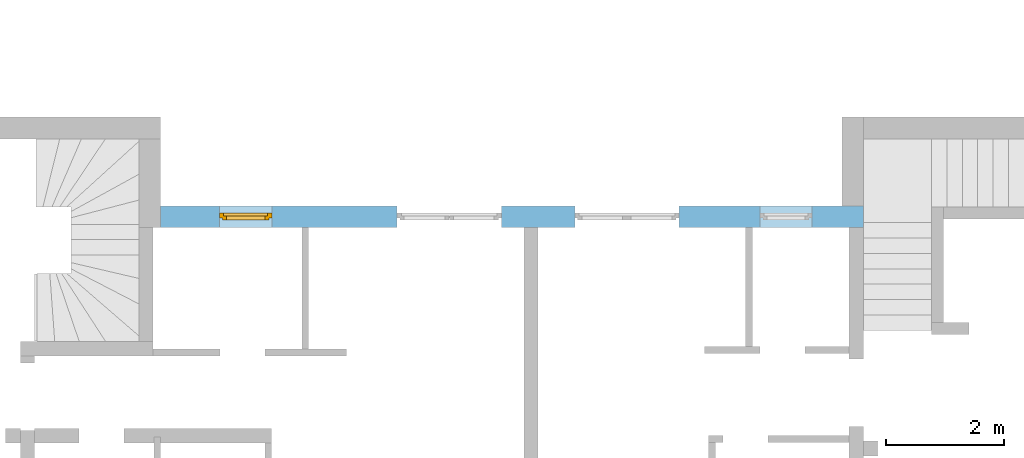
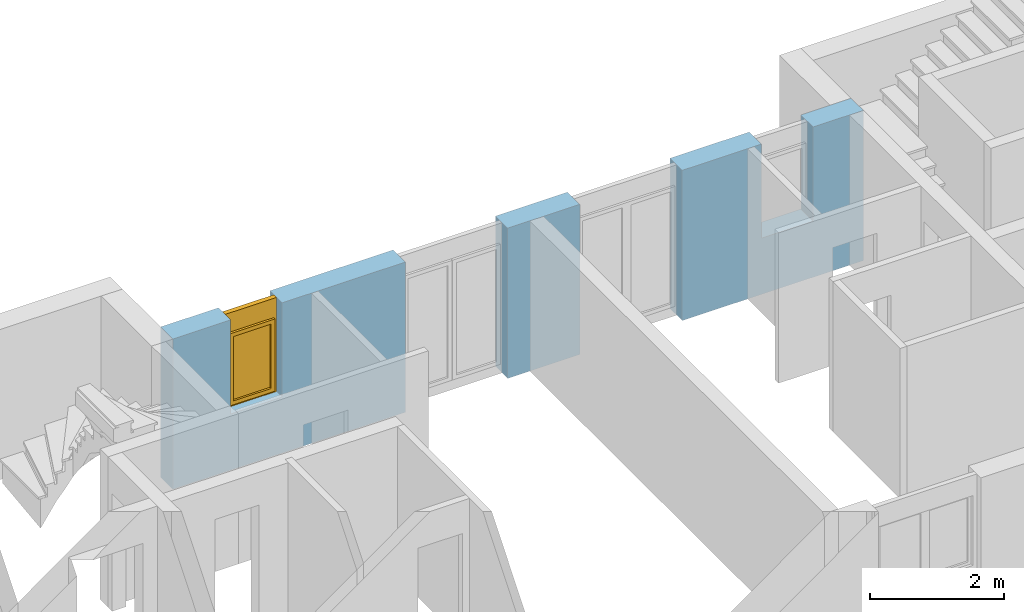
# One storey, part 32 of 41: 1 window, 4 openings, plus 1 element that does not belong to this part.
"""IFC2X3 building model written with IfcOpenShell, lengths in millimetres."""

from ifc_helpers import new_model, entity, si_unit, converted_unit, frame, frame_2d, origin, origin_with_axes, place, context, subcontext, project, spatial, rectangle, extrude, faceted_brep, material, layer, layer_set, layer_usage, type_object, element, fill, save


model = new_model("IFC2X3")

# Units and contexts
model_context = context("Model", 3, precision=1e-05, world=origin())
body_context = subcontext(model_context, "Body", "Model", "MODEL_VIEW")
ifc_project = project(units=[si_unit("LENGTHUNIT", "METRE", prefix="MILLI"), converted_unit("PLANEANGLEUNIT", "DEGREE", entity("IfcPlaneAngleMeasure", 0.0174532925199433), si_unit("PLANEANGLEUNIT", "RADIAN"), dimensions=[0, 0, 0, 0, 0, 0, 0]), si_unit("AREAUNIT", "SQUARE_METRE"), si_unit("VOLUMEUNIT", "CUBIC_METRE")], contexts=[model_context])

# Building, storey
building_placement = place(None, origin())
building = spatial("IfcBuilding", under=ifc_project, at=building_placement, Name="Gebäude", CompositionType="ELEMENT")
storey_placement = place(building_placement, frame((0.0, 0.0, -200.0), z_axis=(0.0, 0.0, 1.0), x_axis=(1.0, 0.0, 0.0)))
storey = spatial("IfcBuildingStorey", under=building, at=storey_placement, Name="EG.- Grundriss", CompositionType="ELEMENT", Elevation=-200.0)

# Wall, openings, window
ifc_material_1 = material(Name="Poroton")
ifc_layer = layer(ifc_material_1, 365.0000000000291)
ifc_layer_set = layer_set([ifc_layer])
ifc_layer_usage = layer_usage(ifc_layer_set, "AXIS2", "POSITIVE", 0.0)
wall_placement = place(storey_placement, frame((176237.7928067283, 134774.8877324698, 0.0), z_axis=(0.0, 0.0, 1.0), x_axis=(-1.0, 0.0, 0.0)))
wall = element("IfcWallStandardCase", 1, at=wall_placement, inside=storey, material=ifc_layer_usage, Name="<Unnamed Element>", context=body_context, shape_type="SweptSolid", body=[
    extrude(rectangle(XDim=11869.99999999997, YDim=365.0000000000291, at=frame_2d((5934.999999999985, 182.5000000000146), x_axis=(1.0, 0.0))), origin_with_axes(), (0.0, 0.0, 1.0), 2730.0),
])
opening_1_placement = place(wall_placement, frame((9990.00000000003, 0.0, 1020.0), z_axis=(0.0, 1.0, 0.0), x_axis=(0.0, 0.0, 1.0)))
opening_1 = element("IfcOpeningElement", 2, at=opening_1_placement, cuts=wall, Name="Fensteröffnung", ObjectType="Opening", context=body_context, shape_type="SweptSolid", body=[
    extrude(rectangle(XDim=1710.0, YDim=885.0, at=frame_2d((855.0, 442.5), x_axis=(1.0, 0.0))), origin_with_axes(), (0.0, 0.0, 1.0), 365.0000000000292),
])
opening_2_placement = place(wall_placement, frame((6115.000000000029, 0.0, 0.0), z_axis=(0.0, 1.0, 0.0), x_axis=(0.0, 0.0, 1.0)))
element("IfcOpeningElement", 3, at=opening_2_placement, cuts=wall, Name="Fensteröffnung", ObjectType="Opening", context=body_context, shape_type="SweptSolid", body=[
    extrude(rectangle(XDim=2730.0, YDim=1760.0, at=frame_2d((1365.0, 880.0), x_axis=(1.0, 0.0))), origin_with_axes(), (0.0, 0.0, 1.0), 365.0000000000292),
])
opening_3_placement = place(wall_placement, frame((3115.000000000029, 0.0, 0.0), z_axis=(0.0, 1.0, 0.0), x_axis=(0.0, 0.0, 1.0)))
element("IfcOpeningElement", 4, at=opening_3_placement, cuts=wall, Name="Fensteröffnung", ObjectType="Opening", context=body_context, shape_type="SweptSolid", body=[
    extrude(rectangle(XDim=2730.0, YDim=1760.0, at=frame_2d((1365.0, 880.0), x_axis=(1.0, 0.0))), origin_with_axes(), (0.0, 0.0, 1.0), 365.0000000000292),
])
opening_4_placement = place(wall_placement, frame((865.0000000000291, 0.0, 1020.0), z_axis=(0.0, 1.0, 0.0), x_axis=(0.0, 0.0, 1.0)))
element("IfcOpeningElement", 5, at=opening_4_placement, cuts=wall, Name="Fensteröffnung", ObjectType="Opening", context=body_context, shape_type="SweptSolid", body=[
    extrude(rectangle(XDim=1710.0, YDim=885.0, at=frame_2d((855.0, 442.5), x_axis=(1.0, 0.0))), origin_with_axes(), (0.0, 0.0, 1.0), 365.0000000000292),
])
ifc_material_2 = material()
window_style = type_object("IfcWindowStyle", Name="Fenster", ConstructionType="NOTDEFINED", OperationType="USERDEFINED", ParameterTakesPrecedence=False, Sizeable=False)
window_placement = place(opening_1_placement, frame((0.0, 0.0, 0.0), z_axis=(1.0, 0.0, 0.0), x_axis=(0.0, 1.0, 0.0)))
window = element("IfcWindow", 6, at=window_placement, inside=storey, type_object=window_style, material=ifc_material_2, Name="Fenster", OverallHeight=1710.0, OverallWidth=885.0, context=body_context, shape_type="Brep", body=[
    faceted_brep([(9.797174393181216e-15, 200.0000000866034, 1710.0), (9.797174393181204e-15, 200.0000000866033, -2.449293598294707e-15), (69.99999999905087, 200.0000000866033, -2.449293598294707e-15), (69.99999999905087, 200.0000000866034, 1710.0), (0.0, 120.0000000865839, 2.449293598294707e-15), (1.21822944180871e-29, 120.000000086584, 1710.0), (69.99999999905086, 120.000000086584, 1710.0), (69.99999999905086, 120.0000000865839, 2.449293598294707e-15), (9.797174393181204e-15, 200.0000000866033, -2.449293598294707e-15), (9.797174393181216e-15, 200.0000000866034, 1710.0), (1.21822944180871e-29, 120.000000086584, 1710.0), (0.0, 120.0000000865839, 2.449293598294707e-15), (69.99999999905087, 200.0000000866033, -2.449293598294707e-15), (9.797174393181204e-15, 200.0000000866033, -2.449293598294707e-15), (0.0, 120.0000000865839, 2.449293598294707e-15), (69.99999999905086, 120.0000000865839, 2.449293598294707e-15), (69.99999999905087, 200.0000000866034, 1710.0), (69.99999999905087, 200.0000000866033, -2.449293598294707e-15), (69.99999999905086, 120.0000000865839, 2.449293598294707e-15), (69.99999999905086, 120.000000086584, 1710.0), (9.797174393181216e-15, 200.0000000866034, 1710.0), (69.99999999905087, 200.0000000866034, 1710.0), (69.99999999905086, 120.000000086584, 1710.0), (1.21822944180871e-29, 120.000000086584, 1710.0)], [[[0, 1, 2, 3]], [[4, 5, 6, 7]], [[8, 9, 10, 11]], [[12, 13, 14, 15]], [[16, 17, 18, 19]], [[20, 21, 22, 23]]], orient=[[False], [False], [False], [False], [False], [False]]),
    faceted_brep([(815.0000000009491, 200.0000000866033, 1710.0), (815.0000000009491, 200.0000000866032, -2.449293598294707e-15), (884.9999999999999, 200.0000000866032, -2.449293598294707e-15), (884.9999999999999, 200.0000000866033, 1710.0), (815.0000000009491, 120.0000000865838, 2.449293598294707e-15), (815.0000000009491, 120.0000000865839, 1710.0), (884.9999999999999, 120.0000000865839, 1710.0), (884.9999999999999, 120.0000000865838, 2.449293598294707e-15), (815.0000000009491, 200.0000000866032, -2.449293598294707e-15), (815.0000000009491, 200.0000000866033, 1710.0), (815.0000000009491, 120.0000000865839, 1710.0), (815.0000000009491, 120.0000000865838, 2.449293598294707e-15), (884.9999999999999, 200.0000000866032, -2.449293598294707e-15), (815.0000000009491, 200.0000000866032, -2.449293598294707e-15), (815.0000000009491, 120.0000000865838, 2.449293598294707e-15), (884.9999999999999, 120.0000000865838, 2.449293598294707e-15), (884.9999999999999, 200.0000000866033, 1710.0), (884.9999999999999, 200.0000000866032, -2.449293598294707e-15), (884.9999999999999, 120.0000000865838, 2.449293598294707e-15), (884.9999999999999, 120.0000000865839, 1710.0), (815.0000000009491, 200.0000000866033, 1710.0), (884.9999999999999, 200.0000000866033, 1710.0), (884.9999999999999, 120.0000000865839, 1710.0), (815.0000000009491, 120.0000000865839, 1710.0)], [[[0, 1, 2, 3]], [[4, 5, 6, 7]], [[8, 9, 10, 11]], [[12, 13, 14, 15]], [[16, 17, 18, 19]], [[20, 21, 22, 23]]], orient=[[False], [False], [False], [False], [False], [False]]),
    faceted_brep([(69.99999999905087, 200.0000000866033, 70.0), (69.99999999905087, 200.0000000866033, -2.449293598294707e-15), (815.0000000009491, 200.0000000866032, -2.449293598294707e-15), (815.0000000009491, 200.0000000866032, 70.0), (69.99999999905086, 120.0000000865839, 2.449293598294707e-15), (69.99999999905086, 120.0000000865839, 70.0), (815.0000000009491, 120.0000000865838, 70.0), (815.0000000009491, 120.0000000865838, 2.449293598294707e-15), (69.99999999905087, 200.0000000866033, -2.449293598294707e-15), (69.99999999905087, 200.0000000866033, 70.0), (69.99999999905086, 120.0000000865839, 70.0), (69.99999999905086, 120.0000000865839, 2.449293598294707e-15), (815.0000000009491, 200.0000000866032, -2.449293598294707e-15), (69.99999999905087, 200.0000000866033, -2.449293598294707e-15), (69.99999999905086, 120.0000000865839, 2.449293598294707e-15), (815.0000000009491, 120.0000000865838, 2.449293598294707e-15), (815.0000000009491, 200.0000000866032, 70.0), (815.0000000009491, 200.0000000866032, -2.449293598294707e-15), (815.0000000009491, 120.0000000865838, 2.449293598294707e-15), (815.0000000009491, 120.0000000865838, 70.0), (69.99999999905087, 200.0000000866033, 70.0), (815.0000000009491, 200.0000000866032, 70.0), (815.0000000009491, 120.0000000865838, 70.0), (69.99999999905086, 120.0000000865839, 70.0)], [[[0, 1, 2, 3]], [[4, 5, 6, 7]], [[8, 9, 10, 11]], [[12, 13, 14, 15]], [[16, 17, 18, 19]], [[20, 21, 22, 23]]], orient=[[False], [False], [False], [False], [False], [False]]),
    faceted_brep([(69.99999999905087, 200.0000000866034, 1710.0), (69.99999999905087, 200.0000000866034, 1340.0), (815.0000000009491, 200.0000000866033, 1340.0), (815.0000000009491, 200.0000000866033, 1710.0), (69.99999999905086, 120.000000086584, 1340.0), (69.99999999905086, 120.000000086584, 1710.0), (815.0000000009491, 120.0000000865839, 1710.0), (815.0000000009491, 120.0000000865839, 1340.0), (69.99999999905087, 200.0000000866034, 1340.0), (69.99999999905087, 200.0000000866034, 1710.0), (69.99999999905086, 120.000000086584, 1710.0), (69.99999999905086, 120.000000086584, 1340.0), (815.0000000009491, 200.0000000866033, 1340.0), (69.99999999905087, 200.0000000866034, 1340.0), (69.99999999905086, 120.000000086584, 1340.0), (815.0000000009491, 120.0000000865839, 1340.0), (815.0000000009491, 200.0000000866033, 1710.0), (815.0000000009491, 200.0000000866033, 1340.0), (815.0000000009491, 120.0000000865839, 1340.0), (815.0000000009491, 120.0000000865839, 1710.0), (69.99999999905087, 200.0000000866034, 1710.0), (815.0000000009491, 200.0000000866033, 1710.0), (815.0000000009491, 120.0000000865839, 1710.0), (69.99999999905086, 120.000000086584, 1710.0)], [[[0, 1, 2, 3]], [[4, 5, 6, 7]], [[8, 9, 10, 11]], [[12, 13, 14, 15]], [[16, 17, 18, 19]], [[20, 21, 22, 23]]], orient=[[False], [False], [False], [False], [False], [False]]),
    faceted_brep([(49.99999999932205, 240.0000000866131, 1360.0), (49.99999999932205, 240.000000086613, 50.0), (119.9999999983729, 240.000000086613, 50.0), (119.9999999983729, 240.0000000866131, 1360.0), (49.99999999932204, 170.000000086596, 50.00000000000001), (49.99999999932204, 170.0000000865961, 1360.0), (119.9999999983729, 170.0000000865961, 1360.0), (119.9999999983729, 170.000000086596, 50.00000000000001), (49.99999999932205, 240.000000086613, 50.0), (49.99999999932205, 240.0000000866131, 1360.0), (49.99999999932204, 170.0000000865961, 1360.0), (49.99999999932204, 170.000000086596, 50.00000000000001), (119.9999999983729, 240.000000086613, 50.0), (49.99999999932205, 240.000000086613, 50.0), (49.99999999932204, 170.000000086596, 50.00000000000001), (119.9999999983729, 170.000000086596, 50.00000000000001), (119.9999999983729, 240.0000000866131, 1360.0), (119.9999999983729, 240.000000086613, 50.0), (119.9999999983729, 170.000000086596, 50.00000000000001), (119.9999999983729, 170.0000000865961, 1360.0), (49.99999999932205, 240.0000000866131, 1360.0), (119.9999999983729, 240.0000000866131, 1360.0), (119.9999999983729, 170.0000000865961, 1360.0), (49.99999999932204, 170.0000000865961, 1360.0)], [[[0, 1, 2, 3]], [[4, 5, 6, 7]], [[8, 9, 10, 11]], [[12, 13, 14, 15]], [[16, 17, 18, 19]], [[20, 21, 22, 23]]], orient=[[False], [False], [False], [False], [False], [False]]),
    faceted_brep([(765.000000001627, 240.000000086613, 1360.0), (765.000000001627, 240.0000000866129, 50.0), (835.0000000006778, 240.0000000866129, 50.0), (835.0000000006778, 240.000000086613, 1360.0), (765.000000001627, 170.000000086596, 50.00000000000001), (765.000000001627, 170.000000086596, 1360.0), (835.0000000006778, 170.000000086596, 1360.0), (835.0000000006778, 170.000000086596, 50.00000000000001), (765.000000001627, 240.0000000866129, 50.0), (765.000000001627, 240.000000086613, 1360.0), (765.000000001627, 170.000000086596, 1360.0), (765.000000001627, 170.000000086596, 50.00000000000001), (835.0000000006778, 240.0000000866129, 50.0), (765.000000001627, 240.0000000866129, 50.0), (765.000000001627, 170.000000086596, 50.00000000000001), (835.0000000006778, 170.000000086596, 50.00000000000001), (835.0000000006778, 240.000000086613, 1360.0), (835.0000000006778, 240.0000000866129, 50.0), (835.0000000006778, 170.000000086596, 50.00000000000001), (835.0000000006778, 170.000000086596, 1360.0), (765.000000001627, 240.000000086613, 1360.0), (835.0000000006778, 240.000000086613, 1360.0), (835.0000000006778, 170.000000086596, 1360.0), (765.000000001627, 170.000000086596, 1360.0)], [[[0, 1, 2, 3]], [[4, 5, 6, 7]], [[8, 9, 10, 11]], [[12, 13, 14, 15]], [[16, 17, 18, 19]], [[20, 21, 22, 23]]], orient=[[False], [False], [False], [False], [False], [False]]),
    faceted_brep([(119.9999999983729, 240.000000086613, 120.0), (119.9999999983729, 240.000000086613, 50.0), (765.000000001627, 240.0000000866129, 50.0), (765.000000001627, 240.0000000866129, 120.0), (119.9999999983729, 170.000000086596, 50.00000000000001), (119.9999999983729, 170.000000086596, 120.0), (765.000000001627, 170.000000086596, 120.0), (765.000000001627, 170.000000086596, 50.00000000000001), (119.9999999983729, 240.000000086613, 50.0), (119.9999999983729, 240.000000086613, 120.0), (119.9999999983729, 170.000000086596, 120.0), (119.9999999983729, 170.000000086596, 50.00000000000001), (765.000000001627, 240.0000000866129, 50.0), (119.9999999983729, 240.000000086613, 50.0), (119.9999999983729, 170.000000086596, 50.00000000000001), (765.000000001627, 170.000000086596, 50.00000000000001), (765.000000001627, 240.0000000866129, 120.0), (765.000000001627, 240.0000000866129, 50.0), (765.000000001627, 170.000000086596, 50.00000000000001), (765.000000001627, 170.000000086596, 120.0), (119.9999999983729, 240.000000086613, 120.0), (765.000000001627, 240.0000000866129, 120.0), (765.000000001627, 170.000000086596, 120.0), (119.9999999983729, 170.000000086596, 120.0)], [[[0, 1, 2, 3]], [[4, 5, 6, 7]], [[8, 9, 10, 11]], [[12, 13, 14, 15]], [[16, 17, 18, 19]], [[20, 21, 22, 23]]], orient=[[False], [False], [False], [False], [False], [False]]),
    faceted_brep([(119.9999999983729, 240.0000000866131, 1360.0), (119.9999999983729, 240.0000000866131, 1290.0), (765.000000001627, 240.000000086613, 1290.0), (765.000000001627, 240.000000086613, 1360.0), (119.9999999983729, 170.0000000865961, 1290.0), (119.9999999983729, 170.0000000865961, 1360.0), (765.000000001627, 170.000000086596, 1360.0), (765.000000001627, 170.000000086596, 1290.0), (119.9999999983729, 240.0000000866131, 1290.0), (119.9999999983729, 240.0000000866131, 1360.0), (119.9999999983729, 170.0000000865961, 1360.0), (119.9999999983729, 170.0000000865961, 1290.0), (765.000000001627, 240.000000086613, 1290.0), (119.9999999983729, 240.0000000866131, 1290.0), (119.9999999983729, 170.0000000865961, 1290.0), (765.000000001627, 170.000000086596, 1290.0), (765.000000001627, 240.000000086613, 1360.0), (765.000000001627, 240.000000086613, 1290.0), (765.000000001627, 170.000000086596, 1290.0), (765.000000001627, 170.000000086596, 1360.0), (119.9999999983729, 240.0000000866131, 1360.0), (765.000000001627, 240.000000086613, 1360.0), (765.000000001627, 170.000000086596, 1360.0), (119.9999999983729, 170.0000000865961, 1360.0)], [[[0, 1, 2, 3]], [[4, 5, 6, 7]], [[8, 9, 10, 11]], [[12, 13, 14, 15]], [[16, 17, 18, 19]], [[20, 21, 22, 23]]], orient=[[False], [False], [False], [False], [False], [False]]),
    faceted_brep([(119.9999999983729, 205.0000000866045, 120.0), (765.000000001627, 205.0000000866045, 120.0), (765.000000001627, 205.0000000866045, 1290.0), (119.9999999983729, 205.0000000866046, 1290.0), (119.9999999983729, 204.0000000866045, 120.0), (119.9999999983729, 204.0000000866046, 1290.0), (765.000000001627, 204.0000000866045, 1290.0), (765.000000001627, 204.0000000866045, 120.0), (119.9999999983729, 205.0000000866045, 120.0), (119.9999999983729, 204.0000000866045, 120.0), (765.000000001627, 204.0000000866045, 120.0), (765.000000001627, 205.0000000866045, 120.0), (765.000000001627, 205.0000000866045, 120.0), (765.000000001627, 204.0000000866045, 120.0), (765.000000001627, 204.0000000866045, 1290.0), (765.000000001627, 205.0000000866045, 1290.0), (765.000000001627, 205.0000000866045, 1290.0), (765.000000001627, 204.0000000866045, 1290.0), (119.9999999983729, 204.0000000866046, 1290.0), (119.9999999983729, 205.0000000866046, 1290.0), (119.9999999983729, 205.0000000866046, 1290.0), (119.9999999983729, 204.0000000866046, 1290.0), (119.9999999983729, 204.0000000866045, 120.0), (119.9999999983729, 205.0000000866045, 120.0)], [[[0, 1, 2, 3]], [[4, 5, 6, 7]], [[8, 9, 10, 11]], [[12, 13, 14, 15]], [[16, 17, 18, 19]], [[20, 21, 22, 23]]], orient=[[False], [False], [False], [False], [False], [False]]),
])
fill(opening_1, window)

save(model, "model.ifc")
